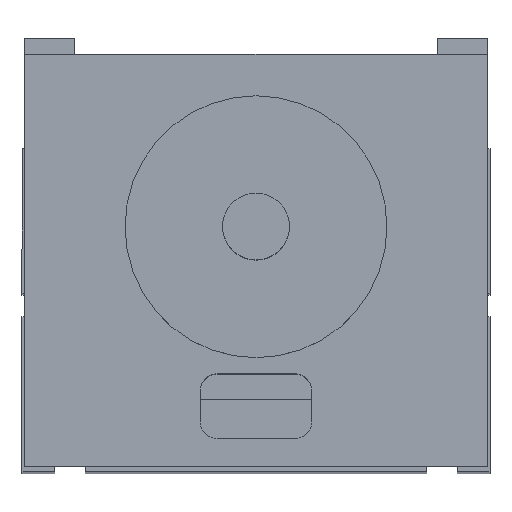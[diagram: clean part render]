
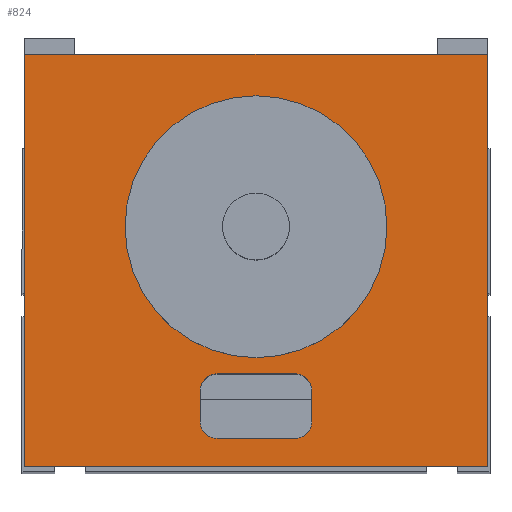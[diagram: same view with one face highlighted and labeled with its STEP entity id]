
A CAD part, top view. The second image highlights one B-rep face of the part: STEP entity #824.
In plain terms, the highlighted planar face has unit normal (0, 0, 1).
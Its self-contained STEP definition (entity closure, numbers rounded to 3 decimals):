
#747 = EDGE_CURVE ( 'NONE', #756, #795, #3222, .T. ) ;
#756 = VERTEX_POINT ( 'NONE', #3108 ) ;
#795 = VERTEX_POINT ( 'NONE', #3231 ) ;
#800 = VERTEX_POINT ( 'NONE', #3206 ) ;
#824 = ADVANCED_FACE ( 'NONE', ( #3271, #3255, #3268 ), #3245, .F. ) ;
#892 = ORIENTED_EDGE ( 'NONE', *, *, #924, .F. ) ;
#893 = EDGE_LOOP ( 'NONE', ( #923, #932, #934, #907, #892, #931, #959, #957 ) ) ;
#894 = VERTEX_POINT ( 'NONE', #4210 ) ;
#895 = VERTEX_POINT ( 'NONE', #4209 ) ;
#896 = EDGE_CURVE ( 'NONE', #894, #930, #4190, .T. ) ;
#897 = EDGE_CURVE ( 'NONE', #935, #906, #4277, .T. ) ;
#904 = VERTEX_POINT ( 'NONE', #4291 ) ;
#906 = VERTEX_POINT ( 'NONE', #4305 ) ;
#907 = ORIENTED_EDGE ( 'NONE', *, *, #896, .F. ) ;
#923 = ORIENTED_EDGE ( 'NONE', *, *, #937, .F. ) ;
#924 = EDGE_CURVE ( 'NONE', #800, #894, #4204, .T. ) ;
#930 = VERTEX_POINT ( 'NONE', #4286 ) ;
#931 = ORIENTED_EDGE ( 'NONE', *, *, #963, .F. ) ;
#932 = ORIENTED_EDGE ( 'NONE', *, *, #897, .F. ) ;
#933 = EDGE_CURVE ( 'NONE', #930, #935, #4289, .T. ) ;
#934 = ORIENTED_EDGE ( 'NONE', *, *, #933, .F. ) ;
#935 = VERTEX_POINT ( 'NONE', #4137 ) ;
#936 = ORIENTED_EDGE ( 'NONE', *, *, #1025, .T. ) ;
#937 = EDGE_CURVE ( 'NONE', #906, #895, #4294, .T. ) ;
#956 = ORIENTED_EDGE ( 'NONE', *, *, #960, .T. ) ;
#957 = ORIENTED_EDGE ( 'NONE', *, *, #961, .F. ) ;
#958 = VERTEX_POINT ( 'NONE', #4183 ) ;
#959 = ORIENTED_EDGE ( 'NONE', *, *, #967, .F. ) ;
#960 = EDGE_CURVE ( 'NONE', #904, #958, #4281, .T. ) ;
#961 = EDGE_CURVE ( 'NONE', #895, #965, #4337, .T. ) ;
#962 = VERTEX_POINT ( 'NONE', #4346 ) ;
#963 = EDGE_CURVE ( 'NONE', #962, #800, #4339, .T. ) ;
#964 = EDGE_LOOP ( 'NONE', ( #956, #966, #1016, #936 ) ) ;
#965 = VERTEX_POINT ( 'NONE', #4361 ) ;
#966 = ORIENTED_EDGE ( 'NONE', *, *, #982, .T. ) ;
#967 = EDGE_CURVE ( 'NONE', #965, #962, #4360, .T. ) ;
#980 = EDGE_CURVE ( 'NONE', #981, #1011, #4357, .T. ) ;
#981 = VERTEX_POINT ( 'NONE', #4334 ) ;
#982 = EDGE_CURVE ( 'NONE', #958, #981, #4342, .T. ) ;
#1011 = VERTEX_POINT ( 'NONE', #4353 ) ;
#1016 = ORIENTED_EDGE ( 'NONE', *, *, #980, .T. ) ;
#1022 = EDGE_CURVE ( 'NONE', #795, #756, #4389, .T. ) ;
#1024 = EDGE_LOOP ( 'NONE', ( #1027, #1029 ) ) ;
#1025 = EDGE_CURVE ( 'NONE', #1011, #904, #4416, .T. ) ;
#1027 = ORIENTED_EDGE ( 'NONE', *, *, #1022, .F. ) ;
#1029 = ORIENTED_EDGE ( 'NONE', *, *, #747, .F. ) ;
#2702 = DIRECTION ( 'NONE',  ( -1., 0., 0. ) ) ;
#3108 = CARTESIAN_POINT ( 'NONE',  ( 65., 43., 30. ) ) ;
#3206 = CARTESIAN_POINT ( 'NONE',  ( 48.5, 5., 30. ) ) ;
#3222 = CIRCLE ( 'NONE', #3236, 23.5 ) ;
#3231 = CARTESIAN_POINT ( 'NONE',  ( 18., 43., 30. ) ) ;
#3236 = AXIS2_PLACEMENT_3D ( 'NONE', #3240, #3239, #3238 ) ;
#3238 = DIRECTION ( 'NONE',  ( -1., 0., 0. ) ) ;
#3239 = DIRECTION ( 'NONE',  ( 0., 0., 1. ) ) ;
#3240 = CARTESIAN_POINT ( 'NONE',  ( 41.5, 43., 30. ) ) ;
#3245 = PLANE ( 'NONE',  #3249 ) ;
#3249 = AXIS2_PLACEMENT_3D ( 'NONE', #3270, #3269, #2702 ) ;
#3255 = FACE_OUTER_BOUND ( 'NONE', #964, .T. ) ;
#3268 = FACE_BOUND ( 'NONE', #1024, .T. ) ;
#3269 = DIRECTION ( 'NONE',  ( 0., 0., -1. ) ) ;
#3270 = CARTESIAN_POINT ( 'NONE',  ( 0., 74., 30. ) ) ;
#3271 = FACE_BOUND ( 'NONE', #893, .T. ) ;
#4137 = CARTESIAN_POINT ( 'NONE',  ( 48.5, 16.6, 30. ) ) ;
#4141 = AXIS2_PLACEMENT_3D ( 'NONE', #4145, #4182, #4181 ) ;
#4145 = CARTESIAN_POINT ( 'NONE',  ( 34.5, 13.6, 30. ) ) ;
#4181 = DIRECTION ( 'NONE',  ( -1., 0., 0. ) ) ;
#4182 = DIRECTION ( 'NONE',  ( 0., 0., 1. ) ) ;
#4183 = CARTESIAN_POINT ( 'NONE',  ( 0., 0., 30. ) ) ;
#4184 = DIRECTION ( 'NONE',  ( 0., 1., 0. ) ) ;
#4185 = CARTESIAN_POINT ( 'NONE',  ( 51.5, 8., 30. ) ) ;
#4186 = DIRECTION ( 'NONE',  ( 0., -1., 0. ) ) ;
#4187 = VECTOR ( 'NONE', #4184, 1000. ) ;
#4188 = VECTOR ( 'NONE', #4186, 1000. ) ;
#4190 = LINE ( 'NONE', #4185, #4187 ) ;
#4201 = CARTESIAN_POINT ( 'NONE',  ( 48.5, 8., 30. ) ) ;
#4204 = CIRCLE ( 'NONE', #4211, 3. ) ;
#4209 = CARTESIAN_POINT ( 'NONE',  ( 31.5, 13.6, 30. ) ) ;
#4210 = CARTESIAN_POINT ( 'NONE',  ( 51.5, 8., 30. ) ) ;
#4211 = AXIS2_PLACEMENT_3D ( 'NONE', #4201, #4213, #4216 ) ;
#4213 = DIRECTION ( 'NONE',  ( 0., 0., 1. ) ) ;
#4216 = DIRECTION ( 'NONE',  ( -1., 0., 0. ) ) ;
#4276 = CARTESIAN_POINT ( 'NONE',  ( 34.5, 16.6, 30. ) ) ;
#4277 = LINE ( 'NONE', #4276, #4290 ) ;
#4280 = CARTESIAN_POINT ( 'NONE',  ( 0., 0., 30. ) ) ;
#4281 = LINE ( 'NONE', #4280, #4188 ) ;
#4282 = CARTESIAN_POINT ( 'NONE',  ( 48.5, 13.6, 30. ) ) ;
#4284 = DIRECTION ( 'NONE',  ( 1., 0., 0. ) ) ;
#4285 = DIRECTION ( 'NONE',  ( 0., 0., 1. ) ) ;
#4286 = CARTESIAN_POINT ( 'NONE',  ( 51.5, 13.6, 30. ) ) ;
#4287 = DIRECTION ( 'NONE',  ( -1., 0., 0. ) ) ;
#4288 = AXIS2_PLACEMENT_3D ( 'NONE', #4282, #4285, #4284 ) ;
#4289 = CIRCLE ( 'NONE', #4288, 3. ) ;
#4290 = VECTOR ( 'NONE', #4287, 1000. ) ;
#4291 = CARTESIAN_POINT ( 'NONE',  ( 0., 74., 30. ) ) ;
#4292 = DIRECTION ( 'NONE',  ( 0., 0., 1. ) ) ;
#4294 = CIRCLE ( 'NONE', #4141, 3. ) ;
#4295 = DIRECTION ( 'NONE',  ( -1., 0., 0. ) ) ;
#4297 = CARTESIAN_POINT ( 'NONE',  ( 41.5, 43., 30. ) ) ;
#4303 = AXIS2_PLACEMENT_3D ( 'NONE', #4297, #4292, #4295 ) ;
#4305 = CARTESIAN_POINT ( 'NONE',  ( 34.5, 16.6, 30. ) ) ;
#4333 = DIRECTION ( 'NONE',  ( 1., 0., 0. ) ) ;
#4334 = CARTESIAN_POINT ( 'NONE',  ( 83., 0., 30. ) ) ;
#4335 = DIRECTION ( 'NONE',  ( 0., 0., 1. ) ) ;
#4337 = LINE ( 'NONE', #4358, #4352 ) ;
#4338 = CARTESIAN_POINT ( 'NONE',  ( 34.5, 5., 30. ) ) ;
#4339 = LINE ( 'NONE', #4338, #4354 ) ;
#4340 = CARTESIAN_POINT ( 'NONE',  ( 34.5, 8., 30. ) ) ;
#4341 = AXIS2_PLACEMENT_3D ( 'NONE', #4340, #4335, #4333 ) ;
#4342 = LINE ( 'NONE', #4349, #4348 ) ;
#4344 = DIRECTION ( 'NONE',  ( 0., 1., 0. ) ) ;
#4345 = VECTOR ( 'NONE', #4344, 1000. ) ;
#4346 = CARTESIAN_POINT ( 'NONE',  ( 34.5, 5., 30. ) ) ;
#4347 = DIRECTION ( 'NONE',  ( 1., 0., 0. ) ) ;
#4348 = VECTOR ( 'NONE', #4347, 1000. ) ;
#4349 = CARTESIAN_POINT ( 'NONE',  ( 0., 0., 30. ) ) ;
#4351 = DIRECTION ( 'NONE',  ( 0., -1., 0. ) ) ;
#4352 = VECTOR ( 'NONE', #4351, 1000. ) ;
#4353 = CARTESIAN_POINT ( 'NONE',  ( 83., 74., 30. ) ) ;
#4354 = VECTOR ( 'NONE', #4359, 1000. ) ;
#4356 = CARTESIAN_POINT ( 'NONE',  ( 83., 0., 30. ) ) ;
#4357 = LINE ( 'NONE', #4356, #4345 ) ;
#4358 = CARTESIAN_POINT ( 'NONE',  ( 31.5, 8., 30. ) ) ;
#4359 = DIRECTION ( 'NONE',  ( 1., 0., 0. ) ) ;
#4360 = CIRCLE ( 'NONE', #4341, 3. ) ;
#4361 = CARTESIAN_POINT ( 'NONE',  ( 31.5, 8., 30. ) ) ;
#4389 = CIRCLE ( 'NONE', #4303, 23.5 ) ;
#4413 = DIRECTION ( 'NONE',  ( -1., 0., 0. ) ) ;
#4415 = CARTESIAN_POINT ( 'NONE',  ( 0., 74., 30. ) ) ;
#4416 = LINE ( 'NONE', #4415, #4420 ) ;
#4420 = VECTOR ( 'NONE', #4413, 1000. ) ;
